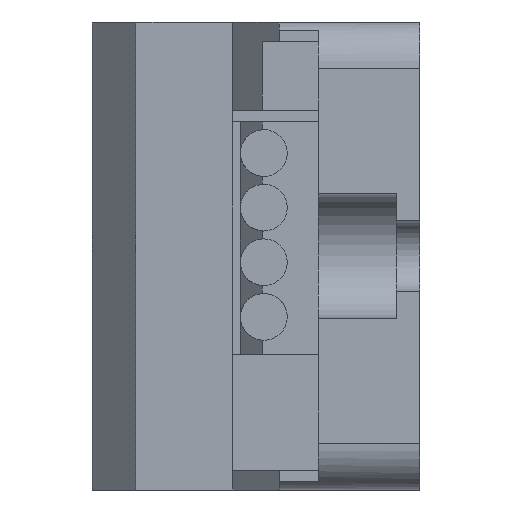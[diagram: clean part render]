
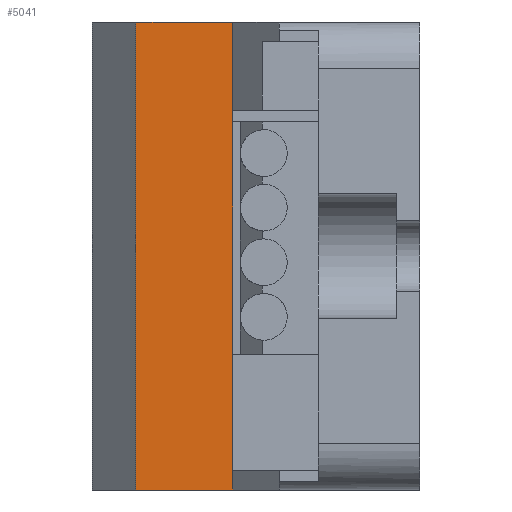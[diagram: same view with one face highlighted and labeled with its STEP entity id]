
A CAD part, left-side view. The second image highlights one B-rep face of the part: STEP entity #5041.
In plain terms, the highlighted planar face has unit normal (-1, 0.018, 0).
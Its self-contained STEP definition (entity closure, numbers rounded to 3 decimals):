
#1668=DIRECTION('',(0.,0.,1.));
#1669=VECTOR('',#1668,30.);
#1670=CARTESIAN_POINT('',(-62.829,18.2,-15.));
#1671=LINE('',#1670,#1669);
#1675=DIRECTION('',(0.,0.,-1.));
#1676=VECTOR('',#1675,0.75);
#1677=CARTESIAN_POINT('',(-62.937,12.,9.35));
#1678=LINE('',#1677,#1676);
#1682=DIRECTION('',(0.,0.,1.));
#1683=VECTOR('',#1682,7.45);
#1684=CARTESIAN_POINT('',(-62.937,12.,-13.75));
#1685=LINE('',#1684,#1683);
#1689=DIRECTION('',(0.017,1.,0.));
#1690=VECTOR('',#1689,6.201);
#1691=CARTESIAN_POINT('',(-62.937,12.,-15.));
#1692=LINE('',#1691,#1690);
#1696=DIRECTION('',(-0.017,-1.,0.));
#1697=VECTOR('',#1696,6.201);
#1698=CARTESIAN_POINT('',(-62.829,18.2,15.));
#1699=LINE('',#1698,#1697);
#2546=DIRECTION('',(0.,0.,1.));
#2547=VECTOR('',#2546,1.25);
#2548=CARTESIAN_POINT('',(-62.937,12.,-15.));
#2549=LINE('',#2548,#2547);
#2568=DIRECTION('',(0.,0.,1.));
#2569=VECTOR('',#2568,5.65);
#2570=CARTESIAN_POINT('',(-62.937,12.,9.35));
#2571=LINE('',#2570,#2569);
#2589=DIRECTION('',(0.,0.,1.));
#2590=VECTOR('',#2589,14.9);
#2591=CARTESIAN_POINT('',(-62.937,12.,-6.3));
#2592=LINE('',#2591,#2590);
#3327=CARTESIAN_POINT('',(-62.829,18.2,-15.));
#3329=VERTEX_POINT('',#3327);
#3335=CARTESIAN_POINT('',(-62.829,18.2,15.));
#3337=VERTEX_POINT('',#3335);
#3347=CARTESIAN_POINT('',(-62.937,12.,-15.));
#3349=VERTEX_POINT('',#3347);
#3355=CARTESIAN_POINT('',(-62.937,12.,15.));
#3357=VERTEX_POINT('',#3355);
#3654=CARTESIAN_POINT('',(-62.937,12.,-13.75));
#3655=VERTEX_POINT('',#3654);
#3670=CARTESIAN_POINT('',(-62.937,12.,-6.3));
#3671=VERTEX_POINT('',#3670);
#3857=CARTESIAN_POINT('',(-62.937,12.,9.35));
#3858=CARTESIAN_POINT('',(-62.937,12.,8.6));
#3859=VERTEX_POINT('',#3857);
#3860=VERTEX_POINT('',#3858);
#5021=CARTESIAN_POINT('',(-62.888,14.8,17.5));
#5022=DIRECTION('',(1.,-0.017,0.));
#5023=DIRECTION('',(0.017,1.,0.));
#5024=AXIS2_PLACEMENT_3D('',#5021,#5022,#5023);
#5025=PLANE('',#5024);
#5027=ORIENTED_EDGE('',*,*,#5026,.T.);
#5029=ORIENTED_EDGE('',*,*,#5028,.F.);
#5031=ORIENTED_EDGE('',*,*,#5030,.F.);
#5033=ORIENTED_EDGE('',*,*,#5032,.F.);
#5034=ORIENTED_EDGE('',*,*,#3902,.T.);
#5035=ORIENTED_EDGE('',*,*,#5016,.T.);
#5036=ORIENTED_EDGE('',*,*,#4607,.T.);
#5038=ORIENTED_EDGE('',*,*,#5037,.F.);
#5039=EDGE_LOOP('',(#5027,#5029,#5031,#5033,#5034,#5035,#5036,#5038));
#5040=FACE_OUTER_BOUND('',#5039,.F.);
#3902=EDGE_CURVE('',#3349,#3329,#1692,.T.);
#4607=EDGE_CURVE('',#3337,#3357,#1699,.T.);
#5016=EDGE_CURVE('',#3329,#3337,#1671,.T.);
#5026=EDGE_CURVE('',#3859,#3860,#1678,.T.);
#5028=EDGE_CURVE('',#3671,#3860,#2592,.T.);
#5030=EDGE_CURVE('',#3655,#3671,#1685,.T.);
#5032=EDGE_CURVE('',#3349,#3655,#2549,.T.);
#5037=EDGE_CURVE('',#3859,#3357,#2571,.T.);
#5041=ADVANCED_FACE('',(#5040),#5025,.F.);
